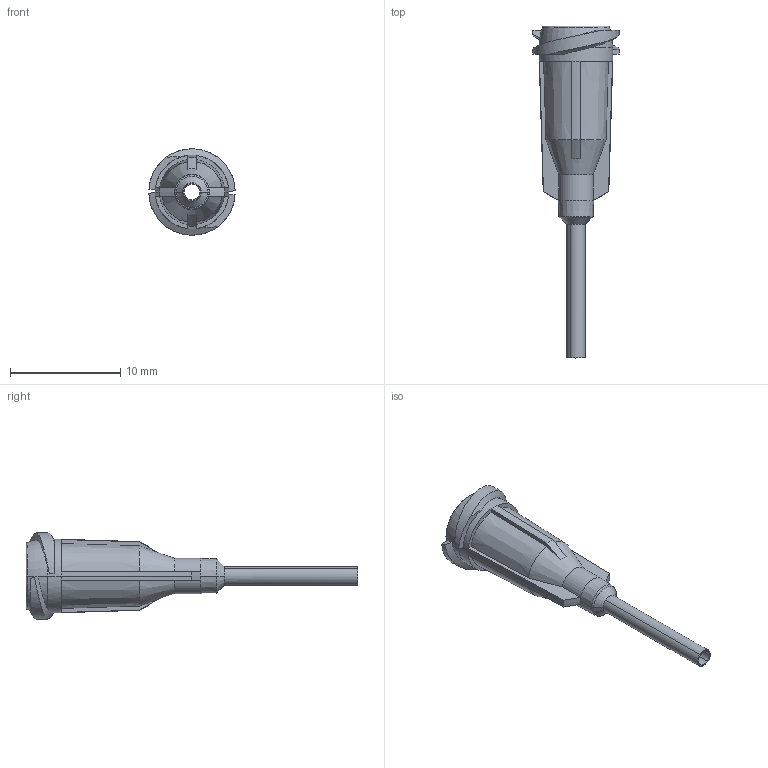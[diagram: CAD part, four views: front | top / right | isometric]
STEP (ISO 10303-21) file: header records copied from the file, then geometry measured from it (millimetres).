
FILE_DESCRIPTION (( 'STEP AP214' ), '1' );
FILE_NAME ('NORDSONEFD-7018054 TIP 15GA GP 054 X 1-2 AM.STEP', '2019-03-11T09:14:54', ( '' ), ( '' ), 'SwSTEP 2.0', 'SolidWorks 2019', '' );
FILE_SCHEMA (( 'AUTOMOTIVE_DESIGN' ));
Length unit declared in the file: inch
Products named in the file (1): NORDSONEFD-7018054 TIP 15GA GP 054 X 1-2 AM
Bounding box: 7.82 x 30.07 x 7.82 mm (x, y, z)
Volume: 262.1 mm3; surface area: 685.4 mm2
Topology: 1 solids, 1 shells, 98 faces, 230 edges, 138 vertices
Faces by surface type: plane 26, torus 22, cone 22, cylinder 16, bspline 12
Entity records: 3327 total; most frequent: CARTESIAN_POINT 1001, DIRECTION 464, ORIENTED_EDGE 460, EDGE_CURVE 230, AXIS2_PLACEMENT_3D 203, VERTEX_POINT 138, CIRCLE 116, EDGE_LOOP 104
